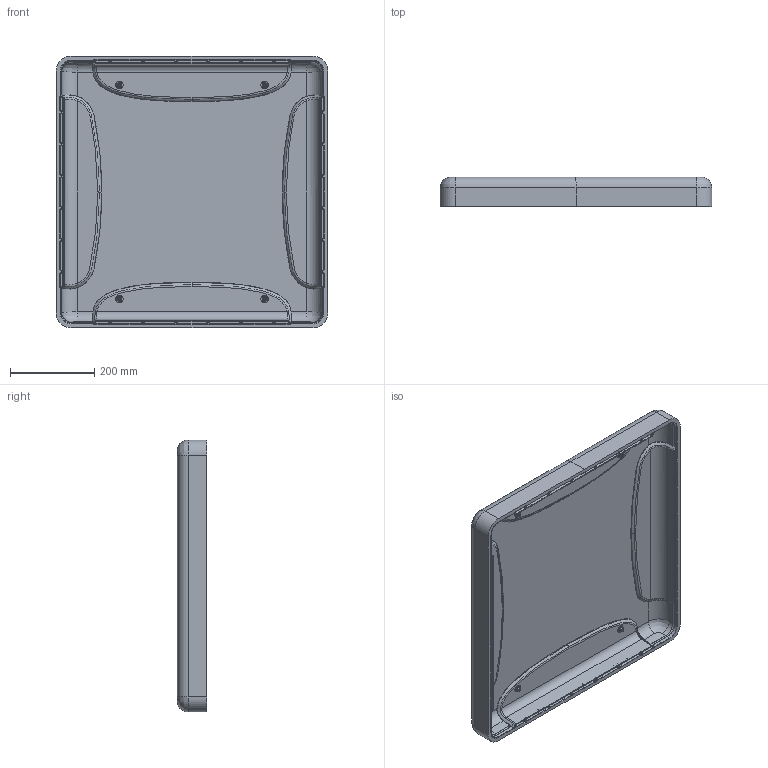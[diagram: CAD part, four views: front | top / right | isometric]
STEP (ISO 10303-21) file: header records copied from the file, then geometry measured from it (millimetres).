
FILE_DESCRIPTION (( 'STEP AP203' ), '1' );
FILE_NAME ('970_Top_INNER_SURFACE_STEP.STEP', '2020-02-18T21:14:52', ( '' ), ( '' ), 'SwSTEP 2.0', 'SolidWorks 2018', '' );
FILE_SCHEMA (( 'CONFIG_CONTROL_DESIGN' ));
Products named in the file (1): 970_Top_INNER_SURFACE_STEP
Bounding box: 645.84 x 69.64 x 645.84 mm (x, y, z)
Volume: 8495514.5 mm3; surface area: 1110957.7 mm2
Topology: 1 solids, 1 shells, 1622 faces, 3935 edges, 2297 vertices
Faces by surface type: bspline 733, plane 414, cylinder 268, torus 85, cone 67, sphere 55
Entity records: 88712 total; most frequent: CARTESIAN_POINT 57245, ORIENTED_EDGE 7666, DIRECTION 4959, EDGE_CURVE 3833, VERTEX_POINT 2297, AXIS2_PLACEMENT_3D 1843, EDGE_LOOP 1706, FACE_OUTER_BOUND 1622
